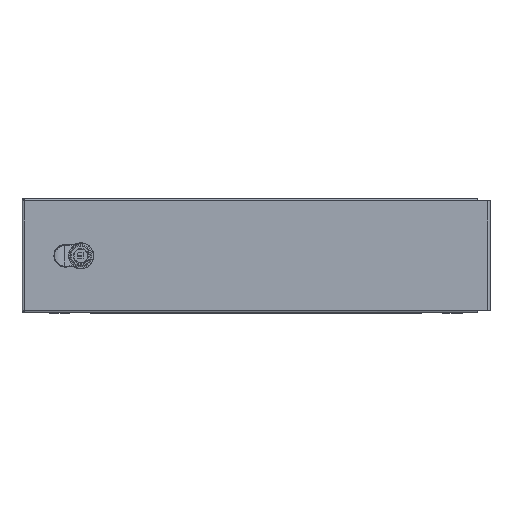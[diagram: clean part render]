
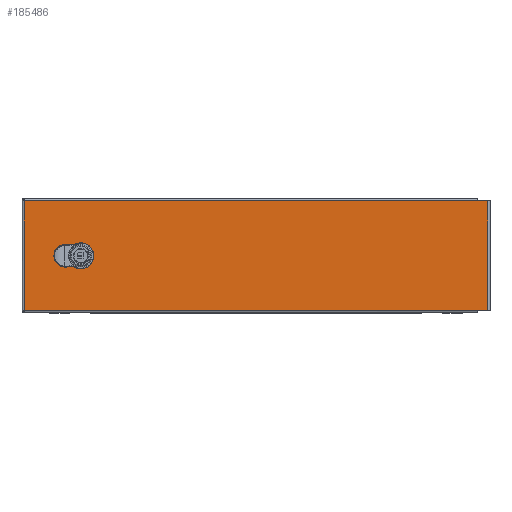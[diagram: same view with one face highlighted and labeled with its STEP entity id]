
A CAD part, top view. The second image highlights one B-rep face of the part: STEP entity #185486.
In plain terms, the highlighted planar face has unit normal (0, 0, 1).
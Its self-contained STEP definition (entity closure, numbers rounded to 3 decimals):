
#182651=CARTESIAN_POINT(' ',(234.752,95.212,104.253));
#182652=VERTEX_POINT(' ',#182651);
#184381=CARTESIAN_POINT(' ',(234.752,95.212,104.253));
#184386=DIRECTION(' ',(-1.,0.,0.));
#184391=VECTOR(' ',#184386,1.);
#184396=LINE('',#184381,#184391);
#184401=CARTESIAN_POINT(' ',(-340.448,95.212,104.253));
#184402=VERTEX_POINT(' ',#184401);
#184406=EDGE_CURVE(' ',#182652,#184402,#184396,.T.);
#184706=CARTESIAN_POINT(' ',(247.952,95.212,104.253));
#184711=DIRECTION(' ',(-1.,0.,0.));
#184716=VECTOR(' ',#184711,1.);
#184721=LINE('',#184706,#184716);
#184726=CARTESIAN_POINT(' ',(247.952,95.212,104.253));
#184727=VERTEX_POINT(' ',#184726);
#184731=EDGE_CURVE(' ',#184727,#182652,#184721,.T.);
#185306=DIRECTION(' ',(-0.,-0.,1.));
#185311=CARTESIAN_POINT(' ',(247.952,-44.188,104.253));
#185316=DIRECTION(' ',(0.,1.,0.));
#185321=AXIS2_PLACEMENT_3D(' ',#185311,#185306,#185316);
#185326=PLANE('NONE',#185321);
#185331=CARTESIAN_POINT(' ',(-340.448,-44.188,104.253));
#185336=DIRECTION(' ',(1.,0.,0.));
#185341=VECTOR(' ',#185336,1.);
#185346=LINE('',#185331,#185341);
#185351=CARTESIAN_POINT(' ',(-340.448,-44.188,104.253));
#185352=VERTEX_POINT(' ',#185351);
#185356=CARTESIAN_POINT(' ',(234.752,-44.188,104.253));
#185357=VERTEX_POINT(' ',#185356);
#185361=EDGE_CURVE(' ',#185352,#185357,#185346,.T.);
#185366=ORIENTED_EDGE(' ',*,*,#185361,.T.);
#185371=CARTESIAN_POINT(' ',(234.752,-44.188,104.253));
#185376=DIRECTION(' ',(1.,0.,0.));
#185381=VECTOR(' ',#185376,1.);
#185386=LINE('',#185371,#185381);
#185391=CARTESIAN_POINT(' ',(247.952,-44.188,104.253));
#185392=VERTEX_POINT(' ',#185391);
#185396=EDGE_CURVE(' ',#185357,#185392,#185386,.T.);
#185401=ORIENTED_EDGE(' ',*,*,#185396,.T.);
#185406=CARTESIAN_POINT(' ',(247.952,95.212,104.253));
#185411=DIRECTION(' ',(0.,-1.,0.));
#185416=VECTOR(' ',#185411,1.);
#185421=LINE('',#185406,#185416);
#185426=EDGE_CURVE(' ',#184727,#185392,#185421,.T.);
#185431=ORIENTED_EDGE(' ',*,*,#185426,.F.);
#185436=ORIENTED_EDGE(' ',*,*,#184731,.T.);
#185441=ORIENTED_EDGE(' ',*,*,#184406,.T.);
#185446=CARTESIAN_POINT(' ',(-340.448,95.212,104.253));
#185451=DIRECTION(' ',(0.,-1.,0.));
#185456=VECTOR(' ',#185451,1.);
#185461=LINE('',#185446,#185456);
#185466=EDGE_CURVE(' ',#184402,#185352,#185461,.T.);
#185471=ORIENTED_EDGE(' ',*,*,#185466,.T.);
#185476=EDGE_LOOP(' ',(#185366,#185401,#185431,#185436,#185441,#185471));
#185481=FACE_OUTER_BOUND(' ',#185476,.T.);
#185486=ADVANCED_FACE('NONE',(#185481),#185326,.T.);
